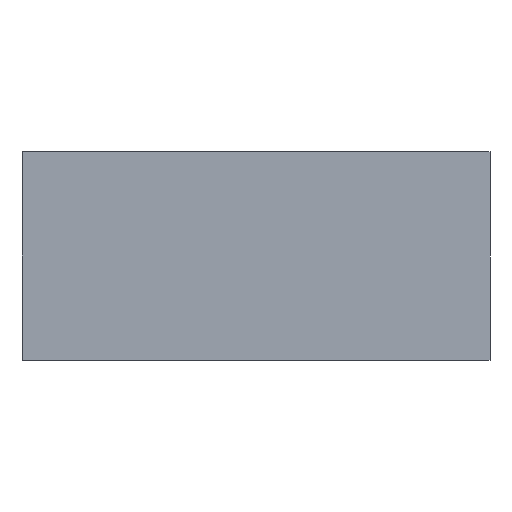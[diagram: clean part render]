
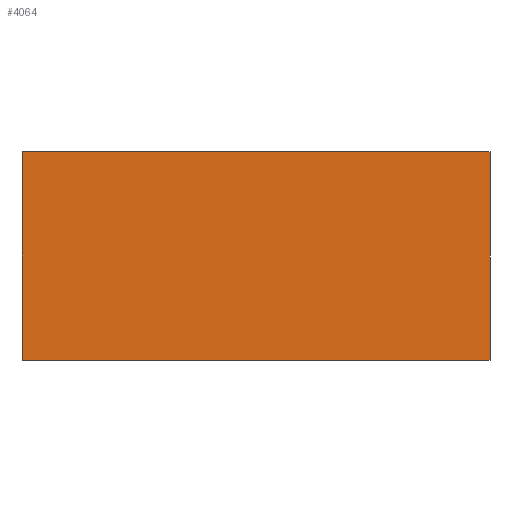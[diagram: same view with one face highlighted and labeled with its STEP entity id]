
A CAD part, front view. The second image highlights one B-rep face of the part: STEP entity #4064.
In plain terms, the highlighted planar face has unit normal (0, -1, 0).
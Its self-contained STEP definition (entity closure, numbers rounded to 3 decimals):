
#195 = DIRECTION ( 'NONE',  ( 1., 0., 0. ) ) ;
#633 = EDGE_CURVE ( 'NONE', #4131, #4878, #7939, .T. ) ;
#954 = CARTESIAN_POINT ( 'NONE',  ( 69.05, -168., -179.097 ) ) ;
#1008 = CARTESIAN_POINT ( 'NONE',  ( 1007.157, -168., 0. ) ) ;
#1059 = ORIENTED_EDGE ( 'NONE', *, *, #3383, .T. ) ;
#1239 = DIRECTION ( 'NONE',  ( 0., 0., 1. ) ) ;
#1611 = DIRECTION ( 'NONE',  ( 0., 1., 0. ) ) ;
#1682 = CARTESIAN_POINT ( 'NONE',  ( 1007.157, -168., -520.394 ) ) ;
#1807 = CARTESIAN_POINT ( 'NONE',  ( 1062.348, -168., -55.191 ) ) ;
#2207 = DIRECTION ( 'NONE',  ( 0., 0., 1. ) ) ;
#2416 = CARTESIAN_POINT ( 'NONE',  ( -108.047, -168., 0. ) ) ;
#2659 = LINE ( 'NONE', #1807, #9385 ) ;
#2799 = ORIENTED_EDGE ( 'NONE', *, *, #633, .F. ) ;
#3383 = EDGE_CURVE ( 'NONE', #6925, #4878, #2659, .T. ) ;
#3682 = ORIENTED_EDGE ( 'NONE', *, *, #7964, .F. ) ;
#4001 = DIRECTION ( 'NONE',  ( 1., 0., 0. ) ) ;
#4064 = ADVANCED_FACE ( 'NONE', ( #6273 ), #7029, .F. ) ;
#4084 = DIRECTION ( 'NONE',  ( 1., 0., 0. ) ) ;
#4131 = VERTEX_POINT ( 'NONE', #2416 ) ;
#4153 = EDGE_LOOP ( 'NONE', ( #1059, #2799, #3682, #4544 ) ) ;
#4544 = ORIENTED_EDGE ( 'NONE', *, *, #5645, .T. ) ;
#4545 = CARTESIAN_POINT ( 'NONE',  ( -108.047, -168., -520.394 ) ) ;
#4775 = CARTESIAN_POINT ( 'NONE',  ( 1062.348, -168., 0. ) ) ;
#4878 = VERTEX_POINT ( 'NONE', #4775 ) ;
#5645 = EDGE_CURVE ( 'NONE', #6818, #6925, #6396, .T. ) ;
#6273 = FACE_OUTER_BOUND ( 'NONE', #4153, .T. ) ;
#6396 = LINE ( 'NONE', #1682, #9893 ) ;
#6818 = VERTEX_POINT ( 'NONE', #4545 ) ;
#6925 = VERTEX_POINT ( 'NONE', #9160 ) ;
#7029 = PLANE ( 'NONE',  #9777 ) ;
#7939 = LINE ( 'NONE', #1008, #8167 ) ;
#7964 = EDGE_CURVE ( 'NONE', #6818, #4131, #9908, .T. ) ;
#8167 = VECTOR ( 'NONE', #4084, 1000. ) ;
#8393 = CARTESIAN_POINT ( 'NONE',  ( -108.047, -168., -55.191 ) ) ;
#8451 = VECTOR ( 'NONE', #2207, 1000. ) ;
#9160 = CARTESIAN_POINT ( 'NONE',  ( 1062.348, -168., -520.394 ) ) ;
#9385 = VECTOR ( 'NONE', #1239, 1000. ) ;
#9777 = AXIS2_PLACEMENT_3D ( 'NONE', #954, #1611, #195 ) ;
#9893 = VECTOR ( 'NONE', #4001, 1000. ) ;
#9908 = LINE ( 'NONE', #8393, #8451 ) ;
